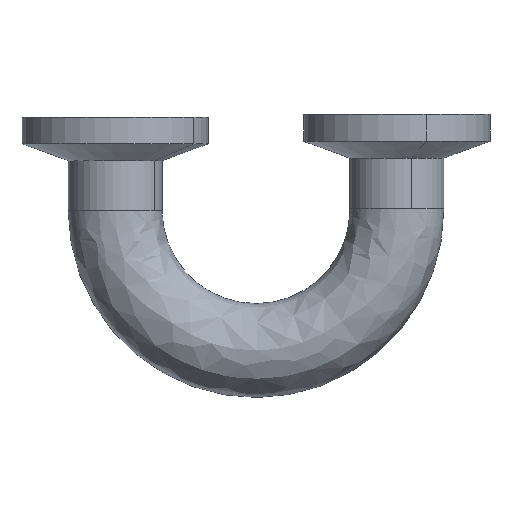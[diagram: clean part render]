
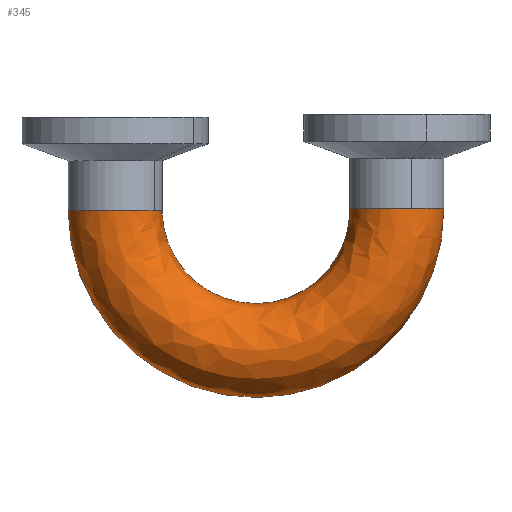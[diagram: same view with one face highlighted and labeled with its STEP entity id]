
A CAD part, front view. The second image highlights one B-rep face of the part: STEP entity #345.
In plain terms, the highlighted free-form (B-spline) face has degree [3, 3] with [4, 4] control points.
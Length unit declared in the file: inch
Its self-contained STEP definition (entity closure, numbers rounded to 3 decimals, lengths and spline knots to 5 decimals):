
#10 = ORIENTED_EDGE ( 'NONE', *, *, #2172, .F. ) ;
#84 = CARTESIAN_POINT ( 'NONE',  ( -0.25, -0.5, 0. ) ) ;
#159 = DIRECTION ( 'NONE',  ( -1., 0., -0.007 ) ) ;
#179 = VERTEX_POINT ( 'NONE', #3049 ) ;
#345 = ADVANCED_FACE ( 'NONE', ( #1516 ), #1950, .T. ) ;
#384 = CARTESIAN_POINT ( 'NONE',  ( -1.73651, -0.5, -2.01337 ) ) ;
#451 = AXIS2_PLACEMENT_3D ( 'NONE', #3758, #1961, #159 ) ;
#525 = DIRECTION ( 'NONE',  ( 0., 0., 1. ) ) ;
#546 = EDGE_CURVE ( 'NONE', #179, #2812, #1329, .T. ) ;
#689 = CARTESIAN_POINT ( 'NONE',  ( 0.25, -0.5, 0. ) ) ;
#709 = CARTESIAN_POINT ( 'NONE',  ( -1.49994, 0., -0.01343 ) ) ;
#777 = CIRCLE ( 'NONE', #997, 0.50002 ) ;
#987 = CARTESIAN_POINT ( 'NONE',  ( -1.73651, 0., -2.01337 ) ) ;
#997 = AXIS2_PLACEMENT_3D ( 'NONE', #3579, #1779, #3879 ) ;
#1001 = VERTEX_POINT ( 'NONE', #3151 ) ;
#1007 = DIRECTION ( 'NONE',  ( -1., 0., 0. ) ) ;
#1090 = ORIENTED_EDGE ( 'NONE', *, *, #3839, .F. ) ;
#1154 = EDGE_CURVE ( 'NONE', #2812, #3847, #3295, .T. ) ;
#1273 = CARTESIAN_POINT ( 'NONE',  ( -1.74994, 0., -0.01343 ) ) ;
#1281 = CARTESIAN_POINT ( 'NONE',  ( -0.23657, 0., -0.99994 ) ) ;
#1298 = CARTESIAN_POINT ( 'NONE',  ( 0.25, 0., 0. ) ) ;
#1329 = CIRCLE ( 'NONE', #2541, 0.25 ) ;
#1423 = CARTESIAN_POINT ( 'NONE',  ( 0.25, 0., 0. ) ) ;
#1516 = FACE_OUTER_BOUND ( 'NONE', #2076, .T. ) ;
#1587 = CARTESIAN_POINT ( 'NONE',  ( -1.24994, -0.5, -0.01343 ) ) ;
#1640 = CIRCLE ( 'NONE', #2529, 0.25 ) ;
#1779 = DIRECTION ( 'NONE',  ( 0., -1., 0. ) ) ;
#1787 = ORIENTED_EDGE ( 'NONE', *, *, #1154, .T. ) ;
#1885 = CARTESIAN_POINT ( 'NONE',  ( -0.23657, -0.5, -0.99994 ) ) ;
#1950 =( BOUNDED_SURFACE ( )  B_SPLINE_SURFACE ( 3, 3, ( 
 ( #2777, #3084, #1281, #3379 ),
 ( #1587, #3680, #1885, #84 ),
 ( #2183, #384, #2483, #689 ),
 ( #2792, #987, #3097, #1298 ) ),
 .UNSPECIFIED., .F., .F., .T. ) 
 B_SPLINE_SURFACE_WITH_KNOTS ( ( 4, 4 ),
 ( 4, 4 ),
 ( 0., 1. ),
 ( 0., 1. ),
 .UNSPECIFIED. ) 
 GEOMETRIC_REPRESENTATION_ITEM ( )  RATIONAL_B_SPLINE_SURFACE ( (
 ( 1., 0.333, 0.333, 1.),
 ( 0.333, 0.111, 0.111, 0.333),
 ( 0.333, 0.111, 0.111, 0.333),
 ( 1., 0.333, 0.333, 1.) ) ) 
 REPRESENTATION_ITEM ( '' )  SURFACE ( )  );
#1961 = DIRECTION ( 'NONE',  ( 0., -1., 0. ) ) ;
#2076 = EDGE_LOOP ( 'NONE', ( #10, #2830, #1787, #1090 ) ) ;
#2172 = EDGE_CURVE ( 'NONE', #179, #1001, #777, .T. ) ;
#2183 = CARTESIAN_POINT ( 'NONE',  ( -1.74994, -0.5, -0.01343 ) ) ;
#2315 = CARTESIAN_POINT ( 'NONE',  ( 0., 0., 0. ) ) ;
#2483 = CARTESIAN_POINT ( 'NONE',  ( 0.26343, -0.5, -1.99994 ) ) ;
#2529 = AXIS2_PLACEMENT_3D ( 'NONE', #2315, #525, #2620 ) ;
#2541 = AXIS2_PLACEMENT_3D ( 'NONE', #709, #2814, #1007 ) ;
#2620 = DIRECTION ( 'NONE',  ( 1., 0., 0. ) ) ;
#2777 = CARTESIAN_POINT ( 'NONE',  ( -1.24994, 0., -0.01343 ) ) ;
#2792 = CARTESIAN_POINT ( 'NONE',  ( -1.74994, 0., -0.01343 ) ) ;
#2812 = VERTEX_POINT ( 'NONE', #1273 ) ;
#2814 = DIRECTION ( 'NONE',  ( 0., 0., -1. ) ) ;
#2830 = ORIENTED_EDGE ( 'NONE', *, *, #546, .T. ) ;
#3049 = CARTESIAN_POINT ( 'NONE',  ( -1.24994, 0., -0.01343 ) ) ;
#3084 = CARTESIAN_POINT ( 'NONE',  ( -1.23651, 0., -1.01337 ) ) ;
#3097 = CARTESIAN_POINT ( 'NONE',  ( 0.26343, 0., -1.99994 ) ) ;
#3151 = CARTESIAN_POINT ( 'NONE',  ( -0.25, 0., 0. ) ) ;
#3295 = CIRCLE ( 'NONE', #451, 0.99999 ) ;
#3379 = CARTESIAN_POINT ( 'NONE',  ( -0.25, 0., 0. ) ) ;
#3579 = CARTESIAN_POINT ( 'NONE',  ( -0.74997, 0., -0.00671 ) ) ;
#3680 = CARTESIAN_POINT ( 'NONE',  ( -1.23651, -0.5, -1.01337 ) ) ;
#3758 = CARTESIAN_POINT ( 'NONE',  ( -0.74997, 0., -0.00671 ) ) ;
#3839 = EDGE_CURVE ( 'NONE', #1001, #3847, #1640, .T. ) ;
#3847 = VERTEX_POINT ( 'NONE', #1423 ) ;
#3879 = DIRECTION ( 'NONE',  ( -1., 0., -0.013 ) ) ;
